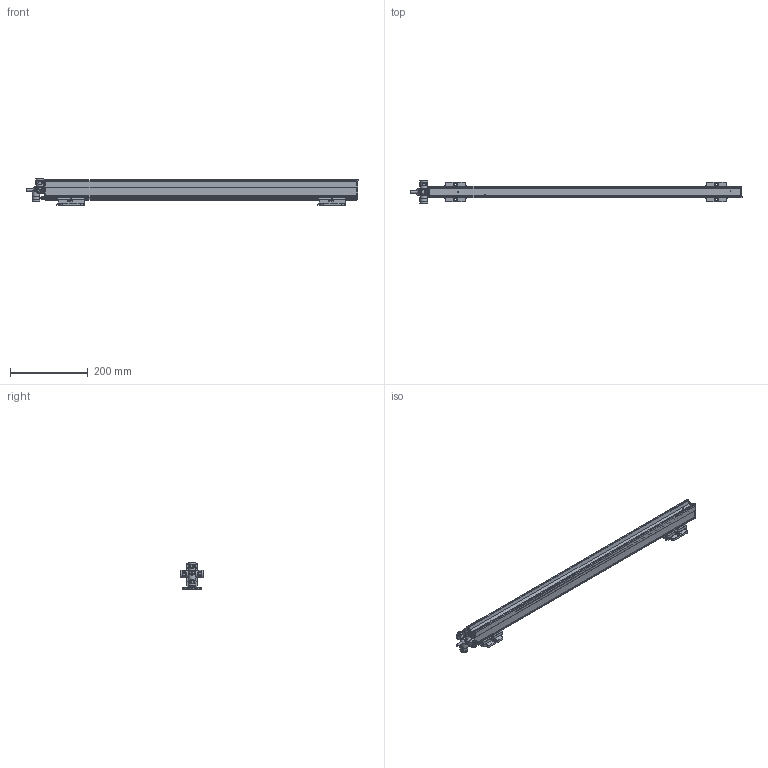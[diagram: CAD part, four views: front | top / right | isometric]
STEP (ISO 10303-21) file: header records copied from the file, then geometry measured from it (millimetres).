
FILE_DESCRIPTION(/* description */ (''),/* implementation_level */ '2;1');
FILE_NAME(/* name */ 'PERFORMAXEASYEX_0630_3D_GB',/* time_stamp */ '2017-05-31T09:46:24+02:00',/* author */ (''),/* organization */ (''),/* preprocessor_version */ 'ST-DEVELOPER v15.7',/* originating_system */ 'HiCAD 2015 2002.1 Build 408',/* authorisation */ '');
FILE_SCHEMA (('AUTOMOTIVE_DESIGN { 1 0 10303 214 1 1 1 1 }'));
Length unit declared in the file: millimetre
Products named in the file (57): Root; -_Performax (IQ) Easy Ex 0630 eff (Hybrid + Speed); -_LED; -_PROFILE; -_POTTING; -_CAP DE; -_CAP CE; -_CABLE; -_PIN; -_COVER; 4532000100_Mounting bracket bars; -_Side piece; -_Slide piece; -_Bracket small; DIN 13-M3; DIN 76-M3; 2047507823_PE connection; DIN 916-M4x20-45H_Set screws; GEWINDE; ISO 8738-4-160 HV_Washers for studs; ISO 4032-M4-10_Hexagon nuts; DIN 127-A 4-FSt_Washers; 2047493713_Cable exits; -_Exit K; -_Clip; -_Gland body; -_Exit S; -_Exit Q; -_Washer ø20mm, 5mm thick for corr. conduit (exit
 Q); -_Exit I; -_Exit U; -_Exit A; Thread_2
Assembly tree (56 placements, depth 5):
  Root
    -_Performax (IQ) Easy Ex 0630 eff (Hybrid + Speed)
      -_LED
      -_PROFILE
      -_POTTING
      -_CAP DE
      -_CAP CE
      -_CABLE
      -_PIN
      -_PIN
      -_COVER
      4532000100_Mounting bracket bars
        -_Side piece
        -_Side piece
        -_Slide piece
        -_Bracket small
          DIN 13-M3
          DIN 13-M3
          DIN 76-M3
          DIN 76-M3
      4532000100_Mounting bracket bars
        -_Side piece
        -_Side piece
        -_Slide piece
        -_Bracket small
          DIN 13-M3
          DIN 13-M3
          DIN 76-M3
          DIN 76-M3
      2047507823_PE connection
        DIN 916-M4x20-45H_Set screws
          GEWINDE
        ISO 8738-4-160 HV_Washers for studs
        ISO 4032-M4-10_Hexagon nuts
          GEWINDE
        DIN 127-A 4-FSt_Washers
        ISO 4032-M4-10_Hexagon nuts
          GEWINDE
      2047493713_Cable exits
        -_Exit K
          -_Clip
          -_Gland body
        -_Exit S
          -_Clip
          -_Gland body
        -_Exit Q
          -_Clip
          -_Washer ø20mm, 5mm thick for corr. conduit (exit
 Q)
          -_Gland body
        -_Exit I
          -_Clip
          -_Gland body
        -_Exit U
          -_Clip
          -_Gland body
        -_Exit A
          Thread_2
Bounding box: 852.4 x 58.79 x 68.9 mm (x, y, z)
Volume: 1036054.2 mm3; surface area: 320376.3 mm2
Topology: 47 solids, 53 shells, 1941 faces, 5010 edges, 3074 vertices
Faces by surface type: plane 913, cylinder 739, torus 91, sphere 87, bspline 64, cone 47
Full cylindrical faces by diameter (mm): 2.387 x8, 3 x16, 3.141 x4, 4 x5, 4.3 x1, 5.4 x2, 5.5 x10, 8 x2, 11.3 x4, 12.5 x4, 13 x1, 14.6 x5, 15.1 x5, 18.4 x4, 20 x7, 20.2 x4
Entity records: 107117 total; most frequent: CARTESIAN_POINT 22020, DIRECTION 10074, PRESENTATION_STYLE_ASSIGNMENT 9495, OVER_RIDING_STYLED_ITEM 9449, DRAUGHTING_PRE_DEFINED_CURVE_FONT 9436, CURVE_STYLE 9436, ORIENTED_EDGE 9436, EDGE_CURVE 4718
